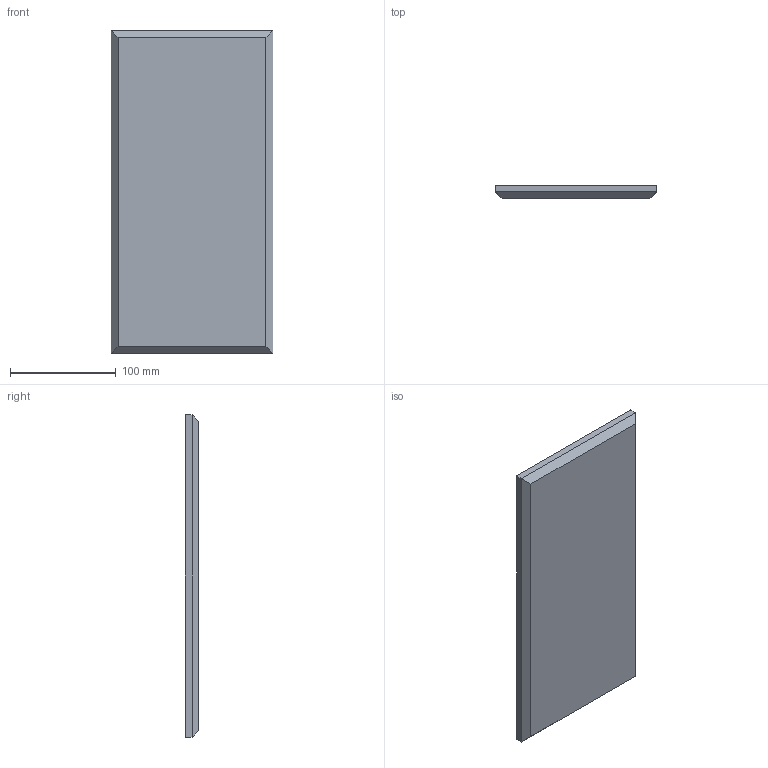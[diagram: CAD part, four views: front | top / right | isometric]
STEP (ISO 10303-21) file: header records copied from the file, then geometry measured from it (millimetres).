
FILE_DESCRIPTION(/* description */ (''),/* implementation_level */ '2;1');
FILE_NAME(/* name */ 'PET PLANQ_Beveled_6x12',/* time_stamp */ '2024-10-31T13:55:33-05:00',/* author */ (''),/* organization */ (''),/* preprocessor_version */ 'ST-DEVELOPER v19.2',/* originating_system */ 'Rhino 8.4',/* authorisation */ '');
FILE_SCHEMA (('CONFIG_CONTROL_DESIGN'));
Length unit declared in the file: inch
Products named in the file (1): Document
Bounding box: 152.4 x 12.7 x 304.8 mm (x, y, z)
Volume: 571840.3 mm3; surface area: 101047.8 mm2
Topology: 1 solids, 1 shells, 10 faces, 20 edges, 12 vertices
Faces by surface type: plane 10
Entity records: 310 total; most frequent: CARTESIAN_POINT 64, ORIENTED_EDGE 40, EDGE_CURVE 20, B_SPLINE_CURVE_WITH_KNOTS 20, DIRECTION 14, VERTEX_POINT 12, AXIS2_PLACEMENT_3D 12, ADVANCED_FACE 10
